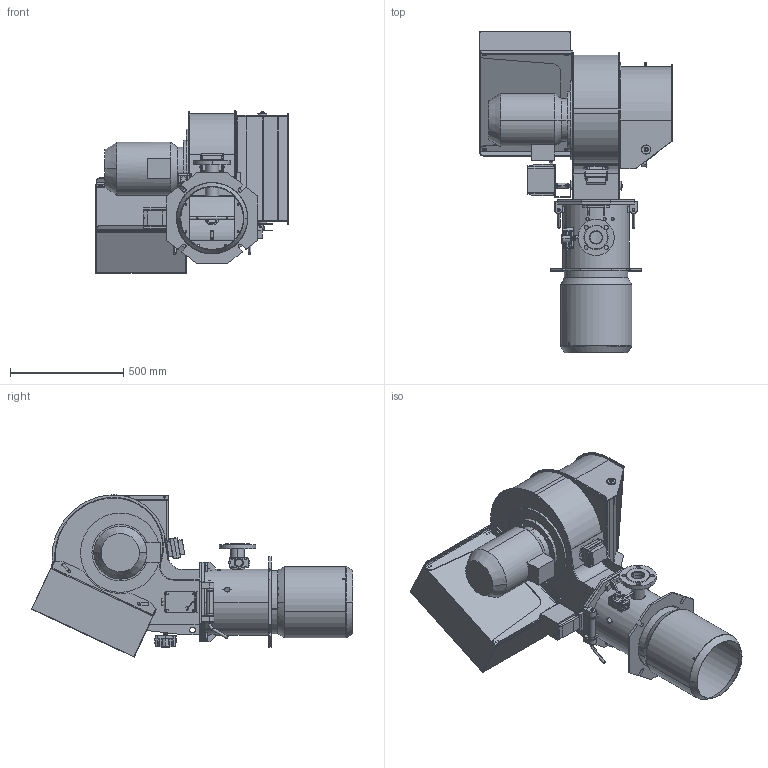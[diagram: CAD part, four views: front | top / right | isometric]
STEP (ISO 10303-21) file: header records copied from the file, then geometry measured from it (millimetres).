
FILE_DESCRIPTION (( 'STEP AP214' ), '1' );
FILE_NAME ('Ò-3.250-310 G.STEP', '2020-11-26T10:42:46', ( 'Pavel' ), ( '' ), 'SwSTEP 2.0', 'SolidWorks 2016', '' );
FILE_SCHEMA (( 'AUTOMOTIVE_DESIGN' ));
Length unit declared in the file: millimetre
Products named in the file (2): ﾒ-3.250-310 G
Bounding box: 849.25 x 1417.31 x 715.26 mm (x, y, z)
Volume: 29153433.4 mm3; surface area: 7979655.3 mm2
Topology: 90 solids, 91 shells, 2474 faces, 6392 edges, 4112 vertices
Faces by surface type: plane 1101, cylinder 993, cone 204, bspline 168, torus 8
Entity records: 118716 total; most frequent: CARTESIAN_POINT 29793, ORIENTED_EDGE 12744, DIRECTION 12158, EDGE_CURVE 6372, AXIS2_PLACEMENT_3D 4237, VERTEX_POINT 4111, LINE 3684, VECTOR 3684
